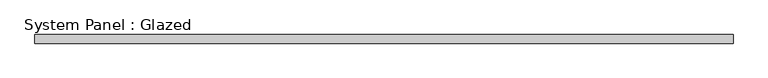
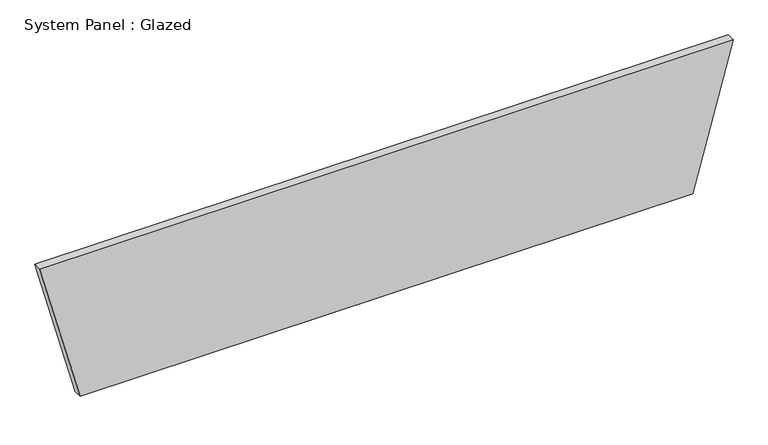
"""IFC4 building model written with IfcOpenShell, lengths in millimetres: plate geometry, System Panel : Glazed."""

from ifc_helpers import new_model, si_unit, frame, origin, place, context, project, spatial, polyline, outline, extrude, source, transform, mapped, element, save


def system_panel_glazed_08c7efc5(model_context):
    return source(origin(), model_context, "Body", "SweptSolid", [
        extrude(outline(polyline([(0.0, -909.2980402), (0.0, 909.2980402), (441.1288699, 1029.5224985), (441.1288699, -1029.5224985), (0.0, -909.2980402)])), frame((0.0, 19.05, 0.0), z_axis=(0.0, 1.0, 0.0), x_axis=(0.0, 0.0, 1.0)), (0.0, 0.0, 1.0), 25.4),
    ])


if __name__ == "__main__":
    model = new_model("IFC4")
    model_context = context("Model", 3, world=origin())
    ifc_project = project(units=[si_unit("LENGTHUNIT", "METRE", prefix="MILLI")], contexts=[model_context])
    site = spatial("IfcSite", under=ifc_project)
    building = spatial("IfcBuilding", under=site)
    placement = place(None, origin())
    system_panel_glazed_shape = system_panel_glazed_08c7efc5(model_context)
    element("IfcPlate", 1, ObjectType="System Panel : Glazed", at=placement, inside=building, context=model_context, shape_type="MappedRepresentation", body=[
        mapped(system_panel_glazed_shape, transform((0.0, 0.0, 0.0), x_axis=(1.0, 0.0, 0.0), y_axis=(0.0, 1.0, 0.0), z_axis=(0.0, 0.0, 1.0))),
    ])
    save(model, "model.ifc")
